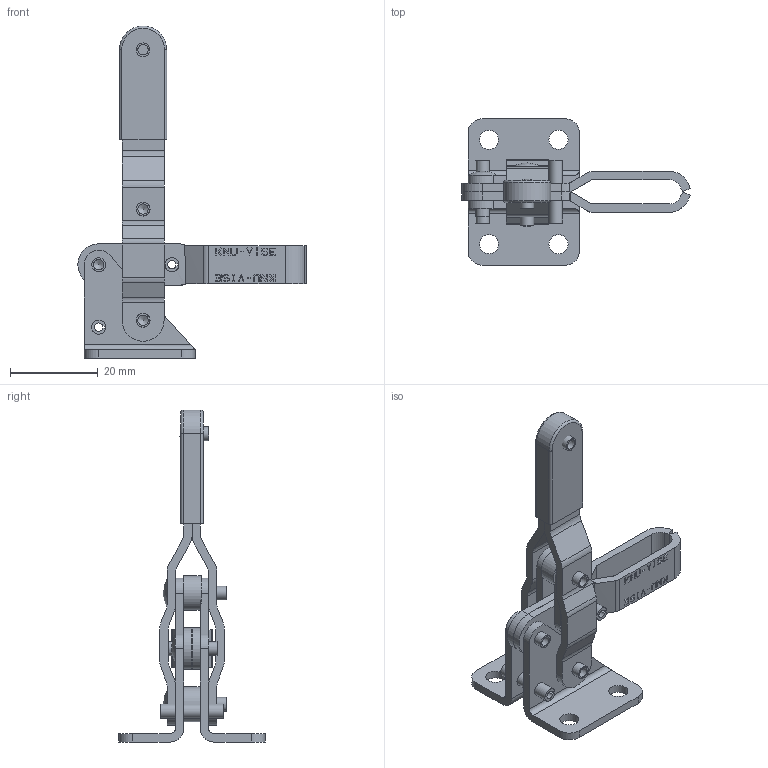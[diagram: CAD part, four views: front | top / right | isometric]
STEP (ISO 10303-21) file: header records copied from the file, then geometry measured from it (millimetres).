
FILE_DESCRIPTION(/* description */ (''),/* implementation_level */ '2;1');
FILE_NAME(/* name */ 'v-120',/* time_stamp */ '2004-12-16T01:48:54-05:00',/* author */ (''),/* organization */ (''),/* preprocessor_version */ 'ST-DEVELOPER v9',/* originating_system */ 'EDS PLM SOLUTIONS - UNIGRAPHICS NX 2.0',/* authorisation */ '');
FILE_SCHEMA (('AUTOMOTIVE_DESIGN { 1 0 10303 214 0 1 1 1 }'));
Length unit declared in the file: inch
Products named in the file (1): mfur5103sxq9
Bounding box: 52.18 x 33.43 x 75.86 mm (x, y, z)
Volume: 8305.4 mm3; surface area: 12818.2 mm2
Topology: 17 solids, 17 shells, 639 faces, 1694 edges, 1130 vertices
Faces by surface type: plane 483, cylinder 110, bspline 32, torus 6, sphere 4, cone 4
Full cylindrical faces by diameter (mm): 2.381 x4, 3.124 x4, 3.2 x22, 3.277 x2, 4.369 x4, 7.938 x2
Entity records: 19860 total; most frequent: CARTESIAN_POINT 3896, ORIENTED_EDGE 3264, DIRECTION 3072, EDGE_CURVE 1632, LINE 1392, VECTOR 1392, VERTEX_POINT 1114, AXIS2_PLACEMENT_3D 840
